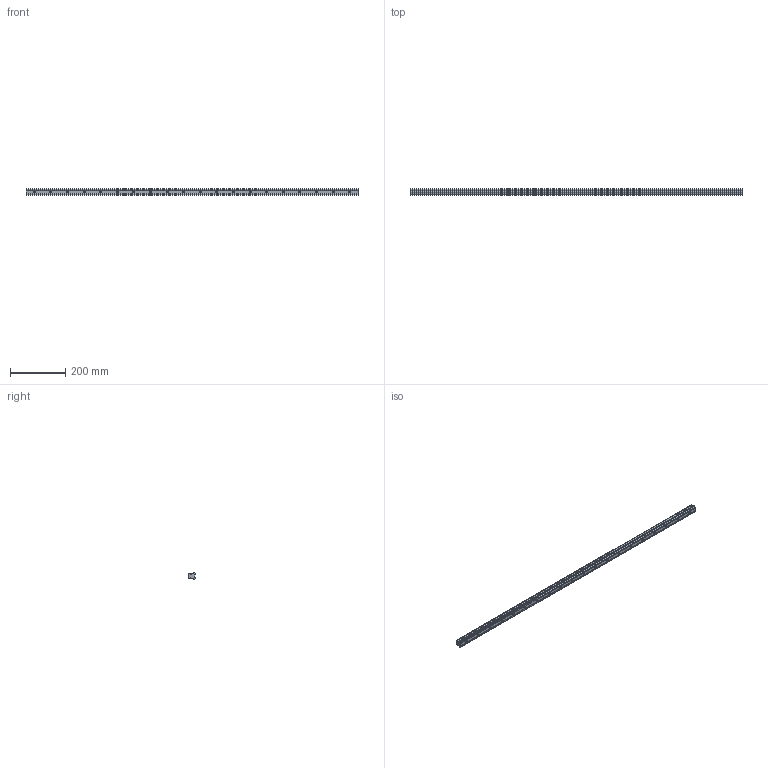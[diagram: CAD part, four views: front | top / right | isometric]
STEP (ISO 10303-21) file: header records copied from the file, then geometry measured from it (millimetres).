
FILE_DESCRIPTION (( 'STEP AP203' ), '1' );
FILE_NAME ('L1018.25R-1200.step', '2023-08-06T10:36:11', ( '' ), ( '' ), 'SwSTEP 2.0', 'SolidWorks 2019', '' );
FILE_SCHEMA (( 'CONFIG_CONTROL_DESIGN' ));
Length unit declared in the file: millimetre
Products named in the file (1): L1018.25R-1200
Bounding box: 1200 x 21.8 x 25 mm (x, y, z)
Volume: 499065.7 mm3; surface area: 120005 mm2
Topology: 1 solids, 1 shells, 209 faces, 481 edges, 274 vertices
Faces by surface type: cylinder 83, cone 80, plane 46
Entity records: 5678 total; most frequent: DIRECTION 1067, CARTESIAN_POINT 925, ORIENTED_EDGE 882, EDGE_CURVE 441, AXIS2_PLACEMENT_3D 416, VERTEX_POINT 274, EDGE_LOOP 249, VECTOR 235
